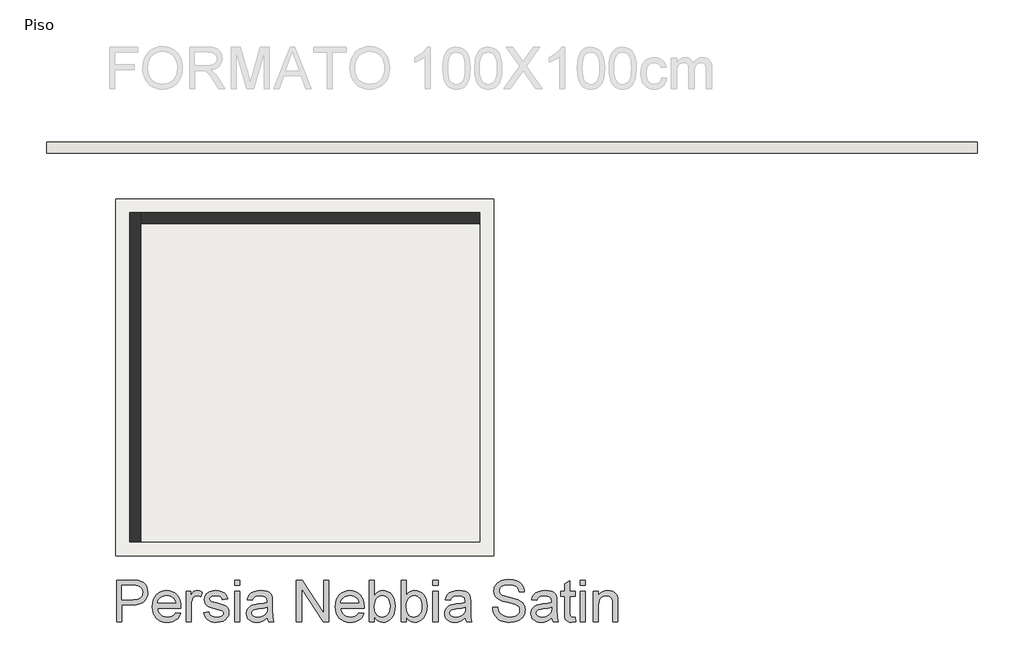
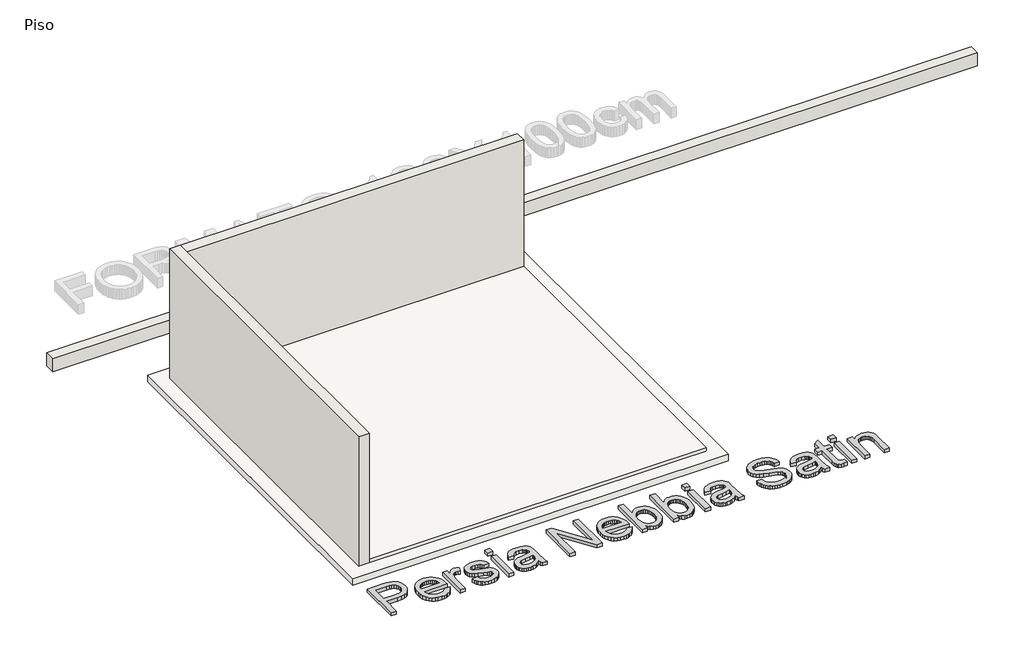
# One storey, part 1 of 2: 3 walls, 2 slabs, 1 proxy.
"""IFC4 building model written with IfcOpenShell, lengths in millimetres."""

from ifc_helpers import new_model, si_unit, frame, origin, origin_with_axes, place, context, project, spatial, polyline, outline, extrude, faceted_brep, element, save

model = new_model("IFC4")

# Units and contexts
model_context = context("Model", 3, world=origin())
ifc_project = project(units=[si_unit("LENGTHUNIT", "METRE", prefix="MILLI")], contexts=[model_context])

# Site, building, storey
site = spatial("IfcSite", under=ifc_project)
building = spatial("IfcBuilding", under=site)
storey = spatial("IfcBuildingStorey", under=building, Name="Piso", Elevation=0.0)

# Proxy
placement = place(None, origin())
element("IfcBuildingElementProxy", 1, Name="600mm Arial", ObjectType="600mm Arial", at=placement, inside=storey, context=model_context, shape_type="SweptSolid", body=[
    extrude(outline(polyline([(92702.6831429, -5032.7204106), (92702.6831429, -4429.9825497), (92926.0610904, -4429.9825497), (92978.0796045, -4431.4172895), (93016.1186028, -4435.7215089), (93056.2729225, -4446.445269), (93089.3271198, -4463.9012697), (93115.9433822, -4488.8804572), (93136.7838972, -4522.1737777), (93150.2483782, -4561.4451807), (93154.7365386, -4604.3586154), (93151.7061106, -4641.3583471), (93142.6148268, -4675.3966287), (93127.4626871, -4706.4734603), (93106.2496916, -4734.5888417), (93077.1272331, -4757.8941661), (93038.2467048, -4774.5408264), (92989.6081065, -4784.5288226), (92931.2114383, -4787.8581546), (92778.0253755, -4787.8581546), (92778.0253755, -5032.7204106), (92702.6831429, -5032.7204106)]), holes=[polyline([(92778.0253755, -4712.515922), (92935.6260222, -4712.515922), (92971.8623987, -4710.7868767), (93002.4333925, -4705.5997405), (93027.3390036, -4696.9545136), (93046.579232, -4684.851196), (93060.9358268, -4669.6116843), (93071.1905374, -4651.5578754), (93077.3433638, -4630.6897693), (93079.3943059, -4607.0073658), (93074.5566577, -4573.1622223), (93060.043713, -4544.6145794), (93037.6580936, -4523.1302709), (93009.2024213, -4510.4751303), (92980.1397436, -4506.6123693), (92933.8601886, -4505.3247823), (92778.0253755, -4505.3247823), (92778.0253755, -4712.515922)])]), origin_with_axes(), (0.0, 0.0, 1.0), 50.0),
    extrude(outline(polyline([(93558.8181221, -4900.8715036), (93632.6888267, -4910.2892826), (93621.3626598, -4939.8761921), (93606.0725643, -4965.9498285), (93586.8185404, -4988.5101919), (93563.600588, -5007.5572822), (93536.6578304, -5022.6864292), (93506.2293908, -5033.4929628), (93472.3152694, -5039.976883), (93434.9154661, -5042.1381897), (93388.1668615, -5038.408786), (93346.5134226, -5027.2205748), (93309.9551494, -5008.5735562), (93278.4920417, -4982.4677301), (93253.1909575, -4949.6296635), (93235.1187545, -4910.7859233), (93224.2754327, -4865.9365096), (93220.6609921, -4815.0814223), (93224.3122209, -4762.5018881), (93235.2659073, -4716.1579538), (93253.5220513, -4676.0496193), (93279.0806529, -4642.1768846), (93310.4609871, -4615.2663166), (93346.1823288, -4596.0444824), (93386.2446781, -4584.5113818), (93430.6480349, -4580.667015), (93473.6212505, -4584.5021848), (93512.4833848, -4596.0076942), (93547.2344377, -4615.1835432), (93577.8744094, -4642.0297318), (93602.8857866, -4675.8288901), (93620.7510559, -4715.8636482), (93631.4702176, -4762.1340061), (93635.0432715, -4814.6399639), (93634.6018131, -4834.94705), (93296.0032247, -4834.94705), (93300.3672249, -4865.0122061), (93309.0446414, -4891.3433599), (93322.0354744, -4913.9405114), (93339.3397237, -4932.8036607), (93360.0008963, -4947.6752904), (93383.0624989, -4958.297883), (93408.5245314, -4964.6714386), (93436.3869941, -4966.7959571), (93476.4861315, -4962.8596197), (93510.2576987, -4951.0506077), (93537.7016955, -4930.633157), (93558.8181221, -4900.8715036)]), holes=[polyline([(93296.0032247, -4759.6048174), (93559.7010388, -4759.6048174), (93549.5107076, -4719.7999855), (93540.745919, -4704.1466066), (93529.5347152, -4691.3259191), (93508.9885058, -4675.8748753), (93485.609605, -4664.8384155), (93459.3980129, -4658.2165395), (93430.3537293, -4656.0092476), (93403.8616272, -4657.7704826), (93379.5676199, -4663.0541878), (93357.4717076, -4671.860363), (93337.5738902, -4684.1890084), (93320.8766461, -4699.4699068), (93308.3824538, -4717.1328411), (93300.0913134, -4737.1778113), (93296.0032247, -4759.6048174)])]), origin_with_axes(), (0.0, 0.0, 1.0), 50.0),
    extrude(outline(polyline([(93710.3855041, -5032.7204106), (93710.3855041, -4590.084794), (93776.3099576, -4590.084794), (93776.3099576, -4655.5677892), (93800.6637457, -4617.6023673), (93823.1045474, -4595.235142), (93845.6189255, -4584.3090467), (93870.1934428, -4580.667015), (93907.7174063, -4586.4795505), (93945.829981, -4603.9171571), (93920.6668525, -4671.4602914), (93894.1793489, -4659.8720085), (93867.6918452, -4656.0092476), (93845.1958612, -4659.7248557), (93825.0911102, -4670.8716802), (93808.8491201, -4688.6035923), (93797.9414189, -4712.0744636), (93788.7811572, -4754.1601639), (93785.7277367, -4800.0718369), (93785.7277367, -5032.7204106), (93710.3855041, -5032.7204106)])), origin_with_axes(), (0.0, 0.0, 1.0), 50.0),
    extrude(outline(polyline([(93964.6655391, -4900.8715036), (94040.0077717, -4891.4537245), (94044.5603114, -4908.6338137), (94051.8903602, -4923.6801873), (94061.997918, -4936.5928453), (94074.8829849, -4947.3717878), (94090.582349, -4955.8698618), (94109.1327986, -4961.9399148), (94154.7869542, -4966.7959571), (94199.8892868, -4962.344585), (94217.4188639, -4956.7803698), (94231.6007148, -4948.9904685), (94250.3626966, -4929.6398756), (94255.053192, -4918.8057508), (94256.6166905, -4907.1990739), (94255.043995, -4897.0271367), (94250.3259084, -4887.9956337), (94231.453562, -4873.3539303), (94203.237013, -4863.7889984), (94153.9040375, -4851.8696218), (94085.1468926, -4831.9856), (94040.4492301, -4815.0078459), (94011.7360404, -4796.4849874), (93990.9323136, -4771.9656525), (93978.2955671, -4743.0133394), (93974.0833182, -4711.1915468), (93977.4678326, -4682.0001105), (93987.6213756, -4655.0527544), (94003.6242424, -4631.4163362), (94024.5567279, -4612.1577137), (94045.3604548, -4600.036002), (94072.4549637, -4589.8640648), (94103.7801156, -4582.9662774), (94137.2757713, -4580.667015), (94186.3144412, -4584.364229), (94228.9519645, -4595.4558712), (94263.2385664, -4612.8566895), (94287.2244725, -4635.4814322), (94303.1169747, -4665.0039624), (94313.123365, -4703.098143), (94237.7811324, -4712.515922), (94228.2713828, -4688.8059274), (94209.4542187, -4670.9452566), (94181.1456992, -4659.7432498), (94143.1618832, -4656.0092476), (94099.8989606, -4659.5777029), (94071.0570121, -4670.283069), (94054.8334162, -4685.7341128), (94049.4255508, -4703.5396013), (94051.669631, -4715.1278842), (94058.4018715, -4725.4653683), (94069.916578, -4734.6992063), (94086.5080559, -4742.0936344), (94151.4024399, -4758.1332894), (94261.9877676, -4793.5971138), (94291.1975981, -4810.5564737), (94313.3440942, -4833.7698276), (94327.3052159, -4863.3107519), (94331.9589231, -4899.2528228), (94326.4958755, -4936.4089043), (94310.1067326, -4971.3576938), (94283.4168939, -5001.3584705), (94247.0517586, -5023.6705136), (94203.1266484, -5037.5212707), (94153.7568847, -5042.1381897), (94113.2070917, -5039.9125036), (94077.7892527, -5033.2354454), (94047.5033674, -5022.1070151), (94022.349436, -5006.5272126), (94001.8032265, -4986.5696143), (93985.3405073, -4962.3077968), (93972.9612781, -4933.7417598), (93964.6655391, -4900.8715036)])), origin_with_axes(), (0.0, 0.0, 1.0), 50.0),
    extrude(outline(polyline([(94416.7189348, -4505.3247823), (94416.7189348, -4429.9825497), (94492.0611674, -4429.9825497), (94492.0611674, -4505.3247823), (94416.7189348, -4505.3247823)])), origin_with_axes(), (0.0, 0.0, 1.0), 50.0),
    extrude(outline(polyline([(94416.7189348, -5032.7204106), (94416.7189348, -4590.084794), (94492.0611674, -4590.084794), (94492.0611674, -5032.7204106), (94416.7189348, -5032.7204106)])), origin_with_axes(), (0.0, 0.0, 1.0), 50.0),
    extrude(outline(polyline([(94887.6078886, -4976.2137362), (94851.6106354, -5007.0790356), (94814.5465244, -5027.2757571), (94775.569427, -5038.4225816), (94733.8332146, -5042.1381897), (94700.2869752, -5039.9033066), (94670.8702112, -5033.1986572), (94645.5829225, -5022.0242416), (94624.4251093, -5006.3800598), (94607.7186682, -4987.2593931), (94595.785496, -4965.6555229), (94588.6255926, -4941.5684493), (94586.2389582, -4914.9981722), (94589.8442017, -4883.7649908), (94600.6599324, -4855.401289), (94617.3433809, -4831.1210773), (94638.5517779, -4812.1383663), (94663.4757831, -4797.7909685), (94691.306056, -4787.4166962), (94756.4947456, -4776.0859308), (94833.5292353, -4764.1665542), (94887.1664302, -4750.1870383), (94887.6078886, -4733.4116194), (94882.4207525, -4699.787205), (94875.9368323, -4687.3343995), (94866.8593441, -4677.7878617), (94851.169177, -4668.259718), (94832.0577074, -4661.4539011), (94783.5708604, -4656.0092476), (94738.689257, -4659.6328852), (94707.345711, -4670.5037982), (94685.9717671, -4690.6085492), (94670.9989699, -4721.9337011), (94595.6567373, -4712.515922), (94608.7349422, -4671.3131386), (94628.251082, -4638.939523), (94656.0261727, -4614.1810647), (94693.88123, -4595.8237532), (94740.1791791, -4584.4561995), (94793.2829451, -4580.667015), (94844.2162073, -4584.0147411), (94884.5912563, -4594.0579196), (94915.0334914, -4609.1594755), (94936.168312, -4627.6823339), (94950.184616, -4650.5829881), (94959.2713013, -4678.8179313), (94962.9501212, -4744.7423848), (94962.9501212, -4838.4787172), (94966.776094, -4969.3711311), (94972.4414767, -5001.7263525), (94981.7856794, -5032.7204106), (94906.4434468, -5032.7204106), (94894.3769173, -5006.5272126), (94887.6078886, -4976.2137362)]), holes=[polyline([(94887.6078886, -4825.5292709), (94836.9873261, -4838.074047), (94766.0596774, -4848.6322602), (94701.2388699, -4860.8459425), (94684.3714804, -4869.1968638), (94671.8818867, -4880.7115702), (94664.1563648, -4894.507145), (94661.5811908, -4909.7006714), (94667.1913912, -4932.104685), (94684.0219925, -4950.4619965), (94711.7051126, -4962.712467), (94749.8728696, -4966.7959571), (94790.3398891, -4962.2894027), (94826.098019, -4948.7697393), (94855.0871203, -4928.8489293), (94875.2470536, -4905.1389347), (94884.1865861, -4880.7115702), (94887.1664302, -4846.8664267), (94887.6078886, -4825.5292709)])]), origin_with_axes(), (0.0, 0.0, 1.0), 50.0),
    extrude(outline(polyline([(95311.4079471, -5032.7204106), (95311.4079471, -4429.9825497), (95392.0476804, -4429.9825497), (95706.9546683, -4907.4933795), (95706.9546683, -4429.9825497), (95782.2969009, -4429.9825497), (95782.2969009, -5032.7204106), (95701.6571676, -5032.7204106), (95386.7501797, -4555.0624281), (95386.7501797, -5032.7204106), (95311.4079471, -5032.7204106)])), origin_with_axes(), (0.0, 0.0, 1.0), 50.0),
    extrude(outline(polyline([(96214.6318216, -4900.8715036), (96288.5025263, -4910.2892826), (96277.1763593, -4939.8761921), (96261.8862639, -4965.9498285), (96242.63224, -4988.5101919), (96219.4142876, -5007.5572822), (96192.47153, -5022.6864292), (96162.0430904, -5033.4929628), (96128.128969, -5039.976883), (96090.7291657, -5042.1381897), (96043.9805611, -5038.408786), (96002.3271222, -5027.2205748), (95965.7688489, -5008.5735562), (95934.3057413, -4982.4677301), (95909.0046571, -4949.6296635), (95890.9324541, -4910.7859233), (95880.0891323, -4865.9365096), (95876.4746917, -4815.0814223), (95880.1259205, -4762.5018881), (95891.0796069, -4716.1579538), (95909.3357509, -4676.0496193), (95934.8943525, -4642.1768846), (95966.2746867, -4615.2663166), (96001.9960284, -4596.0444824), (96042.0583777, -4584.5113818), (96086.4617345, -4580.667015), (96129.4349501, -4584.5021848), (96168.2970843, -4596.0076942), (96203.0481373, -4615.1835432), (96233.688109, -4642.0297318), (96258.6994861, -4675.8288901), (96276.5647555, -4715.8636482), (96287.2839172, -4762.1340061), (96290.856971, -4814.6399639), (96290.4155126, -4834.94705), (95951.8169243, -4834.94705), (95956.1809244, -4865.0122061), (95964.858341, -4891.3433599), (95977.849174, -4913.9405114), (95995.1534233, -4932.8036607), (96015.8145959, -4947.6752904), (96038.8761984, -4958.297883), (96064.338231, -4964.6714386), (96092.2006936, -4966.7959571), (96132.2998311, -4962.8596197), (96166.0713983, -4951.0506077), (96193.5153951, -4930.633157), (96214.6318216, -4900.8715036)]), holes=[polyline([(95951.8169243, -4759.6048174), (96215.5147384, -4759.6048174), (96205.3244072, -4719.7999855), (96196.5596186, -4704.1466066), (96185.3484148, -4691.3259191), (96164.8022054, -4675.8748753), (96141.4233046, -4664.8384155), (96115.2117124, -4658.2165395), (96086.1674289, -4656.0092476), (96059.6753267, -4657.7704826), (96035.3813195, -4663.0541878), (96013.2854071, -4671.860363), (95993.3875897, -4684.1890084), (95976.6903457, -4699.4699068), (95964.1961534, -4717.1328411), (95955.905013, -4737.1778113), (95951.8169243, -4759.6048174)])]), origin_with_axes(), (0.0, 0.0, 1.0), 50.0),
    extrude(outline(polyline([(96441.5414363, -5032.7204106), (96366.1992036, -5032.7204106), (96366.1992036, -4429.9825497), (96441.5414363, -4429.9825497), (96441.5414363, -4653.50765), (96466.3182886, -4621.6398722), (96494.2957144, -4598.8771737), (96525.4737135, -4585.2195547), (96559.8522859, -4580.667015), (96598.6638364, -4584.7688992), (96635.3416713, -4597.0745519), (96667.7888633, -4616.811421), (96693.908485, -4643.2069541), (96714.381118, -4676.003634), (96729.8873441, -4714.9439432), (96739.6546111, -4758.4092009), (96742.9103667, -4804.7807264), (96739.5396479, -4858.2891626), (96729.4274916, -4905.3596639), (96712.5738977, -4945.9922303), (96688.9788662, -4980.1868617), (96660.6565511, -5007.2905677), (96629.6211063, -5026.6503577), (96595.8725318, -5038.2662317), (96559.4108275, -5042.1381897), (96523.9010179, -5037.1441916), (96492.4195162, -5022.1621974), (96464.9663223, -4997.1922069), (96441.5414363, -4962.2342204), (96441.5414363, -5032.7204106)]), holes=[polyline([(96441.5414363, -4808.3123936), (96446.6917842, -4871.1466384), (96453.1297191, -4894.9486034), (96462.142828, -4913.673797), (96480.398972, -4936.914742), (96501.6165661, -4953.5154171), (96525.7956102, -4963.4758221), (96552.9361044, -4966.7959571), (96575.4688766, -4964.3495418), (96596.4197562, -4957.010296), (96615.7887433, -4944.7782197), (96633.5758377, -4927.6533128), (96648.4474674, -4905.6815606), (96659.07006, -4878.9089484), (96665.4436156, -4847.3354762), (96667.5681341, -4810.9611439), (96665.5309875, -4773.8970329), (96659.4195479, -4742.020058), (96649.2338152, -4715.3302193), (96634.9737893, -4693.8275167), (96617.8258898, -4677.2820239), (96598.9765361, -4665.4638148), (96578.4257281, -4658.3728894), (96556.173466, -4656.0092476), (96533.6406938, -4658.4556628), (96512.6898141, -4665.7949086), (96493.3208271, -4678.026985), (96475.5337326, -4695.1518919), (96460.662103, -4716.9029148), (96450.0395103, -4743.0133394), (96443.6659548, -4773.4831657), (96441.5414363, -4808.3123936)])]), origin_with_axes(), (0.0, 0.0, 1.0), 50.0),
    extrude(outline(polyline([(96903.012611, -5032.7204106), (96827.6703784, -5032.7204106), (96827.6703784, -4429.9825497), (96903.012611, -4429.9825497), (96903.012611, -4653.50765), (96927.7894634, -4621.6398722), (96955.7668891, -4598.8771737), (96986.9448882, -4585.2195547), (97021.3234607, -4580.667015), (97060.1350111, -4584.7688992), (97096.8128461, -4597.0745519), (97129.260038, -4616.811421), (97155.3796597, -4643.2069541), (97175.8522927, -4676.003634), (97191.3585188, -4714.9439432), (97201.1257858, -4758.4092009), (97204.3815415, -4804.7807264), (97201.0108227, -4858.2891626), (97190.8986663, -4905.3596639), (97174.0450724, -4945.9922303), (97150.450041, -4980.1868617), (97122.1277259, -5007.2905677), (97091.092281, -5026.6503577), (97057.3437065, -5038.2662317), (97020.8820023, -5042.1381897), (96985.3721927, -5037.1441916), (96953.8906909, -5022.1621974), (96926.4374971, -4997.1922069), (96903.012611, -4962.2342204), (96903.012611, -5032.7204106)]), holes=[polyline([(96903.012611, -4808.3123936), (96908.1629589, -4871.1466384), (96914.6008939, -4894.9486034), (96923.6140027, -4913.673797), (96941.8701468, -4936.914742), (96963.0877408, -4953.5154171), (96987.266785, -4963.4758221), (97014.4072791, -4966.7959571), (97036.9400514, -4964.3495418), (97057.890931, -4957.010296), (97077.259918, -4944.7782197), (97095.0470125, -4927.6533128), (97109.9186421, -4905.6815606), (97120.5412348, -4878.9089484), (97126.9147903, -4847.3354762), (97129.0393088, -4810.9611439), (97127.0021623, -4773.8970329), (97120.8907227, -4742.020058), (97110.7049899, -4715.3302193), (97096.4449641, -4693.8275167), (97079.2970646, -4677.2820239), (97060.4477108, -4665.4638148), (97039.8969029, -4658.3728894), (97017.6446407, -4656.0092476), (96995.1118685, -4658.4556628), (96974.1609889, -4665.7949086), (96954.7920018, -4678.026985), (96937.0049074, -4695.1518919), (96922.1332777, -4716.9029148), (96911.5106851, -4743.0133394), (96905.1371295, -4773.4831657), (96903.012611, -4808.3123936)])]), origin_with_axes(), (0.0, 0.0, 1.0), 50.0),
    extrude(outline(polyline([(97289.1415531, -4505.3247823), (97289.1415531, -4429.9825497), (97364.4837858, -4429.9825497), (97364.4837858, -4505.3247823), (97289.1415531, -4505.3247823)])), origin_with_axes(), (0.0, 0.0, 1.0), 50.0),
    extrude(outline(polyline([(97289.1415531, -5032.7204106), (97289.1415531, -4590.084794), (97364.4837858, -4590.084794), (97364.4837858, -5032.7204106), (97289.1415531, -5032.7204106)])), origin_with_axes(), (0.0, 0.0, 1.0), 50.0),
    extrude(outline(polyline([(97760.030507, -4976.2137362), (97724.0332537, -5007.0790356), (97686.9691427, -5027.2757571), (97647.9920453, -5038.4225816), (97606.255833, -5042.1381897), (97572.7095936, -5039.9033066), (97543.2928295, -5033.1986572), (97518.0055409, -5022.0242416), (97496.8477276, -5006.3800598), (97480.1412865, -4987.2593931), (97468.2081143, -4965.6555229), (97461.048211, -4941.5684493), (97458.6615765, -4914.9981722), (97462.2668201, -4883.7649908), (97473.0825507, -4855.401289), (97489.7659992, -4831.1210773), (97510.9743962, -4812.1383663), (97535.8984014, -4797.7909685), (97563.7286743, -4787.4166962), (97628.9173639, -4776.0859308), (97705.9518537, -4764.1665542), (97759.5890486, -4750.1870383), (97760.030507, -4733.4116194), (97754.8433708, -4699.787205), (97748.3594507, -4687.3343995), (97739.2819624, -4677.7878617), (97723.5917954, -4668.259718), (97704.4803257, -4661.4539011), (97655.9934787, -4656.0092476), (97611.1118753, -4659.6328852), (97579.7683293, -4670.5037982), (97558.3943854, -4690.6085492), (97543.4215882, -4721.9337011), (97468.0793556, -4712.515922), (97481.1575605, -4671.3131386), (97500.6737004, -4638.939523), (97528.448791, -4614.1810647), (97566.3038483, -4595.8237532), (97612.6017974, -4584.4561995), (97665.7055634, -4580.667015), (97716.6388256, -4584.0147411), (97757.0138746, -4594.0579196), (97787.4561097, -4609.1594755), (97808.5909303, -4627.6823339), (97822.6072344, -4650.5829881), (97831.6939196, -4678.8179313), (97835.3727396, -4744.7423848), (97835.3727396, -4838.4787172), (97839.1987123, -4969.3711311), (97844.8640951, -5001.7263525), (97854.2082977, -5032.7204106), (97778.8660651, -5032.7204106), (97766.7995357, -5006.5272126), (97760.030507, -4976.2137362)]), holes=[polyline([(97760.030507, -4825.5292709), (97709.4099444, -4838.074047), (97638.4822958, -4848.6322602), (97573.6614882, -4860.8459425), (97556.7940987, -4869.1968638), (97544.304505, -4880.7115702), (97536.5789831, -4894.507145), (97534.0038091, -4909.7006714), (97539.6140096, -4932.104685), (97556.4446108, -4950.4619965), (97584.127731, -4962.712467), (97622.295488, -4966.7959571), (97662.7625074, -4962.2894027), (97698.5206374, -4948.7697393), (97727.5097386, -4928.8489293), (97747.6696719, -4905.1389347), (97756.6092044, -4880.7115702), (97759.5890486, -4846.8664267), (97760.030507, -4825.5292709)])]), origin_with_axes(), (0.0, 0.0, 1.0), 50.0),
    extrude(outline(polyline([(98155.5772282, -4825.5292709), (98230.9194608, -4825.5292709), (98239.5646877, -4867.3390597), (98255.1996725, -4900.94508), (98279.5902488, -4927.6165246), (98314.5022501, -4948.6225865), (98357.1765615, -4962.2526145), (98404.8540681, -4966.7959571), (98446.8294038, -4963.3562604), (98483.5808151, -4953.0371705), (98513.3608626, -4936.7032099), (98534.4221068, -4915.2189014), (98546.9484888, -4890.5524136), (98551.1239494, -4864.6719152), (98547.9969524, -4839.4536045), (98538.6159616, -4817.6565963), (98519.5596742, -4799.0601614), (98487.4067878, -4783.4435707), (98377.7043769, -4754.6751987), (98305.6914763, -4735.6373054), (98259.6142564, -4717.5191172), (98222.108687, -4692.1720477), (98195.5292129, -4661.4539011), (98179.691893, -4626.026865), (98174.4127863, -4586.5531269), (98176.0452627, -4564.1169237), (98180.9426918, -4542.4256816), (98189.1050735, -4521.4794005), (98200.532408, -4501.2780804), (98215.0959365, -4482.6448573), (98232.6669003, -4466.4028673), (98253.2452994, -4452.5521101), (98276.8311338, -4441.092586), (98329.8429293, -4425.6967245), (98388.5201075, -4420.5647707), (98452.0901163, -4425.9358478), (98507.713874, -4442.0490792), (98532.049268, -4454.0512293), (98553.4048178, -4468.573371), (98571.7805234, -4485.6155045), (98587.1763849, -4505.1776295), (98599.4728406, -4526.6895292), (98608.5503288, -4549.5809864), (98614.4088496, -4573.852001), (98617.0484029, -4599.5025731), (98541.7061703, -4599.5025731), (98536.666187, -4575.4614847), (98527.8738073, -4554.5473933), (98515.3290313, -4536.7602988), (98499.0318589, -4522.1002013), (98478.6787875, -4510.6406772), (98453.9663145, -4502.4553028), (98424.8944398, -4497.5440781), (98391.4631635, -4495.9070033), (98356.9650294, -4497.5256841), (98327.4884845, -4502.3817264), (98303.0335289, -4510.4751303), (98283.6001625, -4521.8058957), (98268.7929122, -4535.4267266), (98258.2163048, -4550.3903268), (98251.8703404, -4566.6966962), (98249.755019, -4584.3458349), (98251.2541381, -4599.5301643), (98255.7514955, -4613.2981479), (98263.2470911, -4625.6497859), (98273.740925, -4636.5850782), (98290.2588266, -4646.9409564), (98316.2680837, -4657.4071992), (98396.7606642, -4678.6707785), (98479.8284187, -4698.8675), (98530.0810993, -4716.4890476), (98573.0313222, -4743.8226798), (98589.6365958, -4759.889926), (98602.9953107, -4777.5574588), (98613.2638169, -4796.7333078), (98620.5984642, -4817.3255025), (98626.466182, -4862.7589289), (98624.7785234, -4886.3263692), (98619.7155474, -4909.2040308), (98611.2772541, -4931.3919136), (98599.4636436, -4952.8900177), (98584.4816493, -4972.86601), (98566.538205, -4990.4875576), (98545.6333106, -5005.7546604), (98521.7669662, -5018.6673184), (98495.633549, -5028.9358246), (98467.9274362, -5036.2704719), (98407.7971241, -5042.1381897), (98369.2568866, -5040.5562971), (98333.9816017, -5035.8106194), (98301.9712696, -5027.9011565), (98273.2258902, -5016.8279084), (98247.5707196, -5002.5724811), (98224.8310138, -4985.1164805), (98205.0067728, -4964.4599064), (98188.0979966, -4940.602759), (98174.4771657, -4914.3175905), (98164.5167607, -4886.376953), (98158.2167815, -4856.7808464), (98155.5772282, -4825.5292709)])), origin_with_axes(), (0.0, 0.0, 1.0), 50.0),
    extrude(outline(polyline([(99012.5951242, -4976.2137362), (98976.5978709, -5007.0790356), (98939.5337599, -5027.2757571), (98900.5566625, -5038.4225816), (98858.8204502, -5042.1381897), (98825.2742107, -5039.9033066), (98795.8574467, -5033.1986572), (98770.570158, -5022.0242416), (98749.4123448, -5006.3800598), (98732.7059037, -4987.2593931), (98720.7727315, -4965.6555229), (98713.6128281, -4941.5684493), (98711.2261937, -4914.9981722), (98714.8314373, -4883.7649908), (98725.6471679, -4855.401289), (98742.3306164, -4831.1210773), (98763.5390134, -4812.1383663), (98788.4630186, -4797.7909685), (98816.2932915, -4787.4166962), (98881.4819811, -4776.0859308), (98958.5164709, -4764.1665542), (99012.1536658, -4750.1870383), (99012.5951242, -4733.4116194), (99007.407988, -4699.787205), (99000.9240679, -4687.3343995), (98991.8465796, -4677.7878617), (98976.1564125, -4668.259718), (98957.0449429, -4661.4539011), (98908.5580959, -4656.0092476), (98863.6764925, -4659.6328852), (98832.3329465, -4670.5037982), (98810.9590026, -4690.6085492), (98795.9862054, -4721.9337011), (98720.6439728, -4712.515922), (98733.7221777, -4671.3131386), (98753.2383176, -4638.939523), (98781.0134082, -4614.1810647), (98818.8684655, -4595.8237532), (98865.1664146, -4584.4561995), (98918.2701806, -4580.667015), (98969.2034428, -4584.0147411), (99009.5784918, -4594.0579196), (99040.0207269, -4609.1594755), (99061.1555475, -4627.6823339), (99075.1718515, -4650.5829881), (99084.2585368, -4678.8179313), (99087.9373568, -4744.7423848), (99087.9373568, -4838.4787172), (99091.7633295, -4969.3711311), (99097.4287122, -5001.7263525), (99106.7729149, -5032.7204106), (99031.4306823, -5032.7204106), (99019.3641529, -5006.5272126), (99012.5951242, -4976.2137362)]), holes=[polyline([(99012.5951242, -4825.5292709), (98961.9745616, -4838.074047), (98891.0469129, -4848.6322602), (98826.2261054, -4860.8459425), (98809.3587159, -4869.1968638), (98796.8691222, -4880.7115702), (98789.1436003, -4894.507145), (98786.5684263, -4909.7006714), (98792.1786267, -4932.104685), (98809.009228, -4950.4619965), (98836.6923482, -4962.712467), (98874.8601052, -4966.7959571), (98915.3271246, -4962.2894027), (98951.0852546, -4948.7697393), (98980.0743558, -4928.8489293), (99000.2342891, -4905.1389347), (99009.1738216, -4880.7115702), (99012.1536658, -4846.8664267), (99012.5951242, -4825.5292709)])]), origin_with_axes(), (0.0, 0.0, 1.0), 50.0),
    extrude(outline(polyline([(99351.6351709, -4969.8861659), (99361.05295, -5034.9277026), (99304.6934283, -5042.1381897), (99268.5306282, -5039.0111928), (99241.5648779, -5029.6302019), (99222.5085906, -5015.1724395), (99210.0741792, -4996.8151279), (99203.2315741, -4965.2876409), (99200.9507057, -4911.3193522), (99200.9507057, -4665.4270266), (99144.4440312, -4665.4270266), (99144.4440312, -4590.084794), (99200.9507057, -4590.084794), (99200.9507057, -4482.5160986), (99276.2929383, -4438.2231064), (99276.2929383, -4590.084794), (99351.6351709, -4590.084794), (99351.6351709, -4665.4270266), (99276.2929383, -4665.4270266), (99276.2929383, -4909.1120603), (99280.2660638, -4947.9603989), (99293.1419337, -4961.7191856), (99304.0128466, -4965.5267642), (99318.8200969, -4966.7959571), (99351.6351709, -4969.8861659)])), origin_with_axes(), (0.0, 0.0, 1.0), 50.0),
    extrude(outline(polyline([(99426.9774035, -4505.3247823), (99426.9774035, -4429.9825497), (99502.3196361, -4429.9825497), (99502.3196361, -4505.3247823), (99426.9774035, -4505.3247823)])), origin_with_axes(), (0.0, 0.0, 1.0), 50.0),
    extrude(outline(polyline([(99426.9774035, -5032.7204106), (99426.9774035, -4590.084794), (99502.3196361, -4590.084794), (99502.3196361, -5032.7204106), (99426.9774035, -5032.7204106)])), origin_with_axes(), (0.0, 0.0, 1.0), 50.0),
    extrude(outline(polyline([(99615.332985, -5032.7204106), (99615.332985, -4590.084794), (99690.6752177, -4590.084794), (99690.6752177, -4651.8889692), (99716.8500216, -4620.7293642), (99748.2855381, -4598.4725035), (99784.9817671, -4585.1183871), (99826.9387087, -4580.667015), (99864.0763961, -4584.2538644), (99898.0870865, -4595.0144128), (99926.4507884, -4611.6058908), (99946.6475099, -4632.6855291), (99960.3511142, -4658.1981454), (99969.2354644, -4688.0885576), (99973.20859, -4760.9291926), (99973.20859, -5032.7204106), (99897.8663573, -5032.7204106), (99897.8663573, -4771.0827357), (99895.6958536, -4732.1240324), (99889.1843423, -4704.4225181), (99877.1729951, -4684.5752845), (99858.5029839, -4669.179423), (99834.5722601, -4659.3017914), (99806.7787753, -4656.0092476), (99783.9011138, -4657.8578546), (99762.65133, -4663.4036757), (99743.0294241, -4672.6467108), (99725.035396, -4685.58696), (99710.002818, -4703.6959512), (99699.2652622, -4728.4452124), (99692.8227288, -4759.8347437), (99690.6752177, -4797.8645449), (99690.6752177, -5032.7204106), (99615.332985, -5032.7204106)])), origin_with_axes(), (0.0, 0.0, 1.0), 50.0),
])

# Slabs
element("IfcSlab", 2, ObjectType="5cm - Porcelanato Persia Nebbia Satin  - Acetinado 100x100", at=placement, inside=storey, context=model_context, shape_type="SweptSolid", body=[
    extrude(outline(polyline([(97972.3733698, 743.4132206), (97972.3733698, -3877.1867794), (93051.7733698, -3877.1867794), (93051.7733698, 743.4132206), (97972.3733698, 743.4132206)])), origin_with_axes(), (0.0, 0.0, 1.0), 50.0),
])
element("IfcSlab", 3, ObjectType="CO02 - Concreto Estrutural Simples", at=placement, inside=storey, context=model_context, shape_type="SweptSolid", body=[
    extrude(outline(polyline([(98172.3733698, 1102.2132206), (98172.3733698, -4077.1867794), (92692.9733698, -4077.1867794), (92692.9733698, 1102.2132206), (98172.3733698, 1102.2132206)])), frame((0.0, 0.0, -100.0), z_axis=(0.0, 0.0, 1.0), x_axis=(1.0, 0.0, 0.0)), (0.0, 0.0, 1.0), 100.0),
])

# Walls
element("IfcWall", 4, ObjectType="CO01 - Bloco de Concreto 14cm / Pintura Branca Simples", at=placement, inside=storey, context=model_context, shape_type="SweptSolid", body=[
    extrude(outline(polyline([(105186.699165, 1765.7486968), (91686.699165, 1765.7486968), (91686.699165, 1924.5486968), (105186.699165, 1924.5486968), (105186.699165, 1765.7486968)])), origin_with_axes(), (0.0, 0.0, 1.0), 200.0),
])
element("IfcWall", 5, ObjectType="CO01 - Bloco de Concreto 14cm / Pintura Branca Simples", at=placement, inside=storey, context=model_context, shape_type="Brep", body=[
    faceted_brep([(93051.7733698, -3877.1867794, 0.0), (93051.7733698, 743.4132206, 0.0), (93051.7733698, 902.2132206, 0.0), (93051.7733698, 902.2132206, 2000.0), (93051.7733698, 743.4132206, 2000.0), (93051.7733698, -3877.1867794, 2000.0), (92892.9733698, -3877.1867794, 0.0), (92892.9733698, -3877.1867794, 2000.0), (92892.9733698, 902.2132206, 2000.0), (92892.9733698, 902.2132206, 0.0)], [[[0, 1, 2, 3, 4, 5]], [[6, 7, 8, 9]], [[2, 1, 0, 6, 9]], [[5, 4, 3, 8, 7]], [[0, 5, 7, 6]], [[3, 2, 9, 8]]]),
])
element("IfcWall", 6, ObjectType="CO01 - Bloco de Concreto 14cm / Pintura Branca Simples", at=placement, inside=storey, context=model_context, shape_type="SweptSolid", body=[
    extrude(outline(polyline([(97972.3733698, 743.4132206), (93051.7733698, 743.4132206), (93051.7733698, 902.2132206), (97972.3733698, 902.2132206), (97972.3733698, 743.4132206)])), origin_with_axes(), (0.0, 0.0, 1.0), 2000.0),
])

save(model, "model.ifc")
